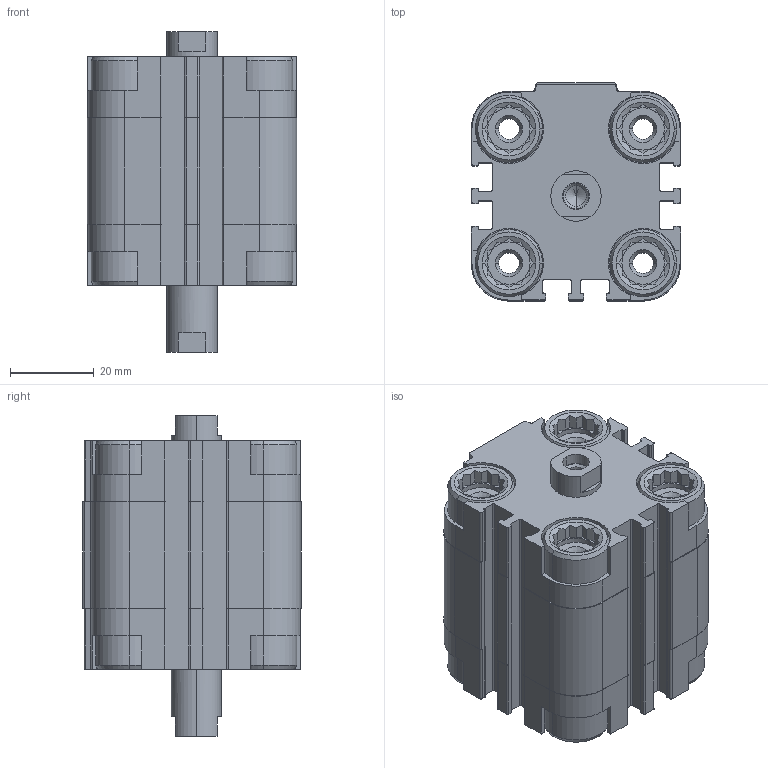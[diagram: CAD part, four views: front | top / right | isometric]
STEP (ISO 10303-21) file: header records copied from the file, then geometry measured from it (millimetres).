
FILE_DESCRIPTION (( 'STEP AP203' ), '1' );
FILE_NAME ('CDVU32-10F-P.STEP', '2020-07-24T18:12:04', ( '' ), ( '' ), 'SwSTEP 2.0', 'SolidWorks 2019', '' );
FILE_SCHEMA (( 'CONFIG_CONTROL_DESIGN' ));
Length unit declared in the file: millimetre
Products named in the file (1): CDVU32-10F-P
Bounding box: 50 x 52 x 76.5 mm (x, y, z)
Volume: 105710.7 mm3; surface area: 37284.1 mm2
Topology: 2 solids, 2 shells, 722 faces, 1928 edges, 1244 vertices
Faces by surface type: plane 422, cylinder 236, cone 64
Entity records: 22623 total; most frequent: CARTESIAN_POINT 4463, ORIENTED_EDGE 3840, DIRECTION 3710, EDGE_CURVE 1920, AXIS2_PLACEMENT_3D 1259, VERTEX_POINT 1244, VECTOR 1192, LINE 1192
